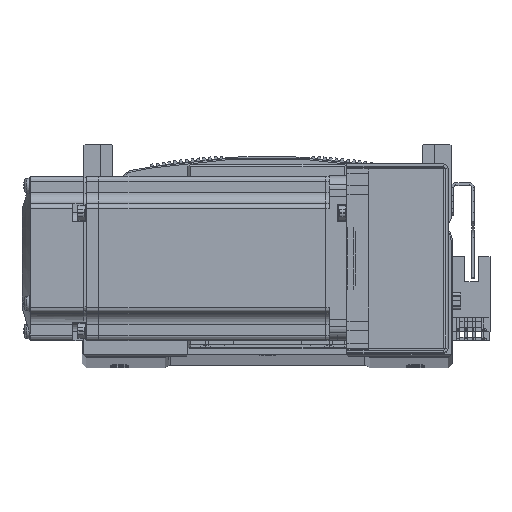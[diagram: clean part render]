
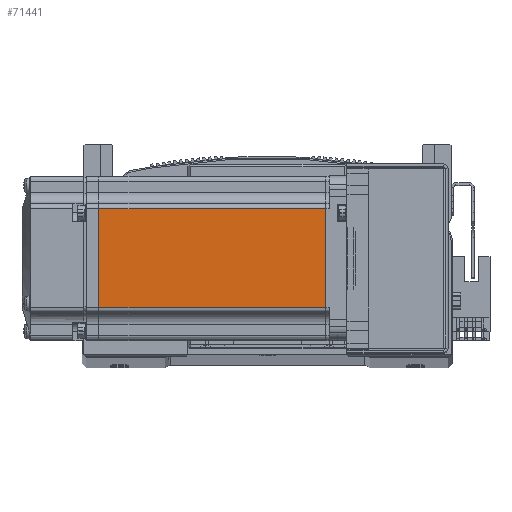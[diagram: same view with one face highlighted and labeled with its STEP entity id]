
A CAD part, top view. The second image highlights one B-rep face of the part: STEP entity #71441.
In plain terms, the highlighted planar face has unit normal (0, 0, 1) as drawn and (0, -1, 0) by its records, which use the part's own axes.
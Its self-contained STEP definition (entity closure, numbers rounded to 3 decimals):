
#13131 = PLANE ( 'NONE',  #51273 ) ;
#13140 = CARTESIAN_POINT ( 'NONE',  ( -6.5, -30., -25. ) ) ;
#13144 = DIRECTION ( 'NONE',  ( 0., -1., 0. ) ) ;
#13145 = DIRECTION ( 'NONE',  ( 0., 0., -1. ) ) ;
#20386 = VERTEX_POINT ( 'NONE', #68956 ) ;
#20390 = VERTEX_POINT ( 'NONE', #68946 ) ;
#25314 = FACE_OUTER_BOUND ( 'NONE', #85888, .T. ) ;
#28248 = CARTESIAN_POINT ( 'NONE',  ( -90.45, -30., 0. ) ) ;
#28260 = CARTESIAN_POINT ( 'NONE',  ( -7.75, -30., 0. ) ) ;
#28278 = DIRECTION ( 'NONE',  ( 0., 0., -1. ) ) ;
#28285 = CARTESIAN_POINT ( 'NONE',  ( -6.5, -30., 18. ) ) ;
#28294 = DIRECTION ( 'NONE',  ( 0., 0., -1. ) ) ;
#28329 = DIRECTION ( 'NONE',  ( -1., 0., 0. ) ) ;
#28616 = CARTESIAN_POINT ( 'NONE',  ( -6.5, -30., -18. ) ) ;
#28633 = DIRECTION ( 'NONE',  ( -1., 0., 0. ) ) ;
#51273 = AXIS2_PLACEMENT_3D ( 'NONE', #13140, #13144, #13145 ) ;
#57999 = EDGE_CURVE ( 'NONE', #75481, #20390, #62279, .T. ) ;
#58015 = EDGE_CURVE ( 'NONE', #75498, #20386, #62237, .T. ) ;
#58018 = EDGE_CURVE ( 'NONE', #75481, #75498, #62265, .T. ) ;
#58139 = EDGE_CURVE ( 'NONE', #20390, #20386, #62301, .T. ) ;
#62237 = LINE ( 'NONE', #28248, #62249 ) ;
#62249 = VECTOR ( 'NONE', #28294, 1000. ) ;
#62265 = LINE ( 'NONE', #28285, #62284 ) ;
#62279 = LINE ( 'NONE', #28260, #62287 ) ;
#62284 = VECTOR ( 'NONE', #28329, 1000. ) ;
#62287 = VECTOR ( 'NONE', #28278, 1000. ) ;
#62301 = LINE ( 'NONE', #28616, #62336 ) ;
#62336 = VECTOR ( 'NONE', #28633, 1000. ) ;
#68946 = CARTESIAN_POINT ( 'NONE',  ( -7.75, -30., -18. ) ) ;
#68956 = CARTESIAN_POINT ( 'NONE',  ( -90.45, -30., -18. ) ) ;
#71441 = ADVANCED_FACE ( 'NONE', ( #25314 ), #13131, .T. ) ;
#75481 = VERTEX_POINT ( 'NONE', #88293 ) ;
#75498 = VERTEX_POINT ( 'NONE', #88349 ) ;
#82553 = ORIENTED_EDGE ( 'NONE', *, *, #58139, .F. ) ;
#82624 = ORIENTED_EDGE ( 'NONE', *, *, #58015, .T. ) ;
#82702 = ORIENTED_EDGE ( 'NONE', *, *, #58018, .T. ) ;
#82862 = ORIENTED_EDGE ( 'NONE', *, *, #57999, .F. ) ;
#85888 = EDGE_LOOP ( 'NONE', ( #82862, #82702, #82624, #82553 ) ) ;
#88293 = CARTESIAN_POINT ( 'NONE',  ( -7.75, -30., 18. ) ) ;
#88349 = CARTESIAN_POINT ( 'NONE',  ( -90.45, -30., 18. ) ) ;
